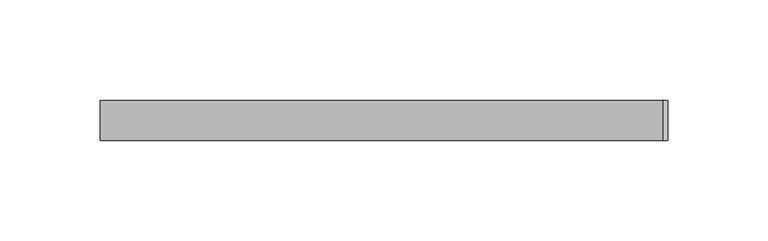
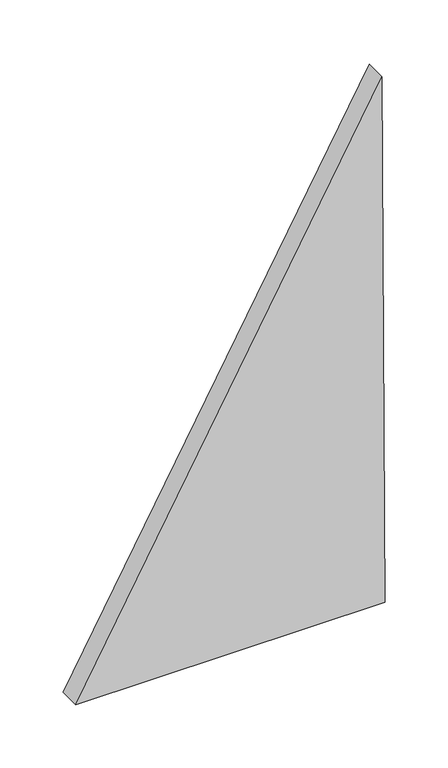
"""IFC4 building model written with IfcOpenShell, lengths in millimetres: plate geometry, 空系统嵌板 : 空."""

from ifc_helpers import new_model, si_unit, frame, origin, place, context, project, spatial, polyline, outline, extrude, source, transform, mapped, element, save


def plate_2cce4260(model_context):
    return source(origin(), model_context, "Body", "SweptSolid", [
        extrude(outline(polyline([(0.0, -141.2328527), (0.0, 141.2328527), (508.5025078, 138.764527), (0.0, -141.2328527)])), frame((0.0, -10.0, 0.0), z_axis=(0.0, 1.0, 0.0), x_axis=(0.0, 0.0, 1.0)), (0.0, 0.0, 1.0), 20.0),
    ])


if __name__ == "__main__":
    model = new_model("IFC4")
    model_context = context("Model", 3, world=origin())
    ifc_project = project(units=[si_unit("LENGTHUNIT", "METRE", prefix="MILLI")], contexts=[model_context])
    site = spatial("IfcSite", under=ifc_project)
    building = spatial("IfcBuilding", under=site)
    placement = place(None, origin())
    plate_shape = plate_2cce4260(model_context)
    element("IfcPlate", 1, ObjectType="空系统嵌板 : 空", at=placement, inside=building, context=model_context, shape_type="MappedRepresentation", body=[
        mapped(plate_shape, transform((0.0, 0.0, 0.0), x_axis=(1.0, 0.0, 0.0), y_axis=(0.0, 1.0, 0.0), z_axis=(0.0, 0.0, 1.0))),
    ])
    save(model, "model.ifc")
